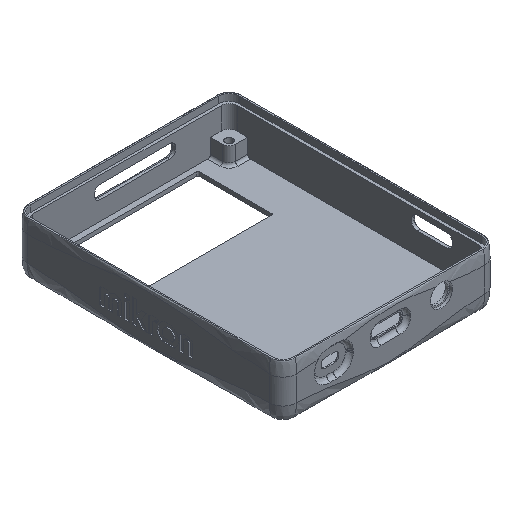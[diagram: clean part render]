
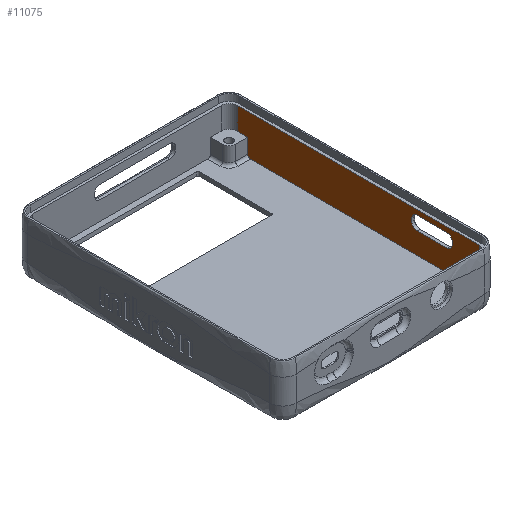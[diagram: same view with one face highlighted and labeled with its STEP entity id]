
A CAD part, isometric view. The second image highlights one B-rep face of the part: STEP entity #11075.
In plain terms, the highlighted planar face has unit normal (-1, 0, 0).
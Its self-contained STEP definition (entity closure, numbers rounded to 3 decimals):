
#14 = VERTEX_POINT ( 'NONE', #19941 ) ;
#131 = VERTEX_POINT ( 'NONE', #15046 ) ;
#187 = CIRCLE ( 'NONE', #22246, 1. ) ;
#429 = LINE ( 'NONE', #18039, #13509 ) ;
#539 = DIRECTION ( 'NONE',  ( 0., 0., -1. ) ) ;
#559 = LINE ( 'NONE', #8236, #13066 ) ;
#881 = DIRECTION ( 'NONE',  ( -1., 0., 0. ) ) ;
#1635 = AXIS2_PLACEMENT_3D ( 'NONE', #13446, #9863, #7824 ) ;
#1725 = EDGE_LOOP ( 'NONE', ( #20039, #2740, #22422, #18406, #20072, #18965, #19700, #25223 ) ) ;
#1790 = LINE ( 'NONE', #21459, #8161 ) ;
#2142 = ORIENTED_EDGE ( 'NONE', *, *, #18988, .T. ) ;
#2521 = LINE ( 'NONE', #12693, #17006 ) ;
#2525 = VERTEX_POINT ( 'NONE', #14174 ) ;
#2621 = AXIS2_PLACEMENT_3D ( 'NONE', #14371, #8622, #22157 ) ;
#2740 = ORIENTED_EDGE ( 'NONE', *, *, #12128, .T. ) ;
#3018 = VECTOR ( 'NONE', #11325, 1000. ) ;
#3197 = VERTEX_POINT ( 'NONE', #8934 ) ;
#3582 = DIRECTION ( 'NONE',  ( 0., 0., -1. ) ) ;
#3860 = CARTESIAN_POINT ( 'NONE',  ( 38., 45., 8.5 ) ) ;
#3998 = EDGE_CURVE ( 'NONE', #14, #16249, #14468, .T. ) ;
#4002 = ORIENTED_EDGE ( 'NONE', *, *, #15305, .T. ) ;
#4566 = EDGE_CURVE ( 'NONE', #131, #12195, #429, .T. ) ;
#4624 = CIRCLE ( 'NONE', #2621, 2. ) ;
#5188 = CARTESIAN_POINT ( 'NONE',  ( 38., -20., 14.9 ) ) ;
#5341 = CARTESIAN_POINT ( 'NONE',  ( 38., 45., 16.8 ) ) ;
#5944 = DIRECTION ( 'NONE',  ( 0., -1., 0. ) ) ;
#6102 = VECTOR ( 'NONE', #24844, 1000. ) ;
#6290 = ORIENTED_EDGE ( 'NONE', *, *, #11349, .F. ) ;
#6431 = AXIS2_PLACEMENT_3D ( 'NONE', #18871, #16835, #9298 ) ;
#6855 = CIRCLE ( 'NONE', #6431, 2. ) ;
#7104 = EDGE_CURVE ( 'NONE', #10796, #19758, #17202, .T. ) ;
#7136 = EDGE_CURVE ( 'NONE', #17852, #24423, #24725, .T. ) ;
#7441 = VERTEX_POINT ( 'NONE', #8878 ) ;
#7597 = CIRCLE ( 'NONE', #13734, 1. ) ;
#7744 = CARTESIAN_POINT ( 'NONE',  ( 38., -20., 9.9 ) ) ;
#7771 = VECTOR ( 'NONE', #24544, 1000. ) ;
#7824 = DIRECTION ( 'NONE',  ( 0., 0., -1. ) ) ;
#8111 = LINE ( 'NONE', #7744, #10130 ) ;
#8161 = VECTOR ( 'NONE', #13411, 1000. ) ;
#8236 = CARTESIAN_POINT ( 'NONE',  ( 38., -41.1, 18.258 ) ) ;
#8242 = CARTESIAN_POINT ( 'NONE',  ( 38., -33., 12.9 ) ) ;
#8514 = AXIS2_PLACEMENT_3D ( 'NONE', #8242, #10380, #16168 ) ;
#8622 = DIRECTION ( 'NONE',  ( 1., 0., 0. ) ) ;
#8768 = CARTESIAN_POINT ( 'NONE',  ( 38., -45., 2. ) ) ;
#8802 = VERTEX_POINT ( 'NONE', #17911 ) ;
#8878 = CARTESIAN_POINT ( 'NONE',  ( 38., 41.1, 3. ) ) ;
#8887 = DIRECTION ( 'NONE',  ( 0., 1., 0. ) ) ;
#8934 = CARTESIAN_POINT ( 'NONE',  ( 38., -35., 12.9 ) ) ;
#9030 = CARTESIAN_POINT ( 'NONE',  ( 38., 40.1, 2. ) ) ;
#9298 = DIRECTION ( 'NONE',  ( 0., 0., -1. ) ) ;
#9818 = EDGE_CURVE ( 'NONE', #20360, #22928, #7597, .T. ) ;
#9863 = DIRECTION ( 'NONE',  ( 1., 0., 0. ) ) ;
#10015 = CARTESIAN_POINT ( 'NONE',  ( 38., -45., 16.8 ) ) ;
#10130 = VECTOR ( 'NONE', #5944, 1000. ) ;
#10191 = CIRCLE ( 'NONE', #1635, 2. ) ;
#10267 = DIRECTION ( 'NONE',  ( 0., 0., 1. ) ) ;
#10380 = DIRECTION ( 'NONE',  ( 1., 0., 0. ) ) ;
#10565 = CARTESIAN_POINT ( 'NONE',  ( 38., 40.1, 3. ) ) ;
#10796 = VERTEX_POINT ( 'NONE', #5341 ) ;
#11075 = ADVANCED_FACE ( 'NONE', ( #17183, #20787 ), #24956, .F. ) ;
#11159 = ORIENTED_EDGE ( 'NONE', *, *, #13742, .T. ) ;
#11315 = ORIENTED_EDGE ( 'NONE', *, *, #9818, .T. ) ;
#11325 = DIRECTION ( 'NONE',  ( 0., -1., 0. ) ) ;
#11349 = EDGE_CURVE ( 'NONE', #2525, #22928, #559, .T. ) ;
#11434 = VECTOR ( 'NONE', #14303, 1000. ) ;
#11517 = CARTESIAN_POINT ( 'NONE',  ( 38., 41.1, 18.258 ) ) ;
#11957 = EDGE_CURVE ( 'NONE', #12289, #8802, #8111, .T. ) ;
#12051 = CARTESIAN_POINT ( 'NONE',  ( 38., -33., 14.9 ) ) ;
#12108 = LINE ( 'NONE', #15980, #11434 ) ;
#12128 = EDGE_CURVE ( 'NONE', #17852, #3197, #16663, .T. ) ;
#12195 = VERTEX_POINT ( 'NONE', #22660 ) ;
#12289 = VERTEX_POINT ( 'NONE', #16136 ) ;
#12693 = CARTESIAN_POINT ( 'NONE',  ( 38., 45., 2. ) ) ;
#12895 = EDGE_CURVE ( 'NONE', #20360, #24130, #24833, .T. ) ;
#13066 = VECTOR ( 'NONE', #13977, 1000. ) ;
#13269 = CARTESIAN_POINT ( 'NONE',  ( 38., -40.1, 3. ) ) ;
#13411 = DIRECTION ( 'NONE',  ( 0., 0., 1. ) ) ;
#13446 = CARTESIAN_POINT ( 'NONE',  ( 38., -22., 11.9 ) ) ;
#13509 = VECTOR ( 'NONE', #539, 1000. ) ;
#13734 = AXIS2_PLACEMENT_3D ( 'NONE', #13269, #21078, #3582 ) ;
#13742 = EDGE_CURVE ( 'NONE', #14, #7441, #16005, .T. ) ;
#13928 = CARTESIAN_POINT ( 'NONE',  ( 38., -41.1, 3. ) ) ;
#13945 = DIRECTION ( 'NONE',  ( 0., 0., -1. ) ) ;
#13977 = DIRECTION ( 'NONE',  ( 0., 0., -1. ) ) ;
#14166 = EDGE_CURVE ( 'NONE', #131, #24423, #6855, .T. ) ;
#14174 = CARTESIAN_POINT ( 'NONE',  ( 38., -41.1, 8.5 ) ) ;
#14303 = DIRECTION ( 'NONE',  ( 0., 1., 0. ) ) ;
#14371 = CARTESIAN_POINT ( 'NONE',  ( 38., -33., 11.9 ) ) ;
#14468 = LINE ( 'NONE', #14595, #7771 ) ;
#14512 = ORIENTED_EDGE ( 'NONE', *, *, #7104, .F. ) ;
#14595 = CARTESIAN_POINT ( 'NONE',  ( 38., 41.1, 8.5 ) ) ;
#15046 = CARTESIAN_POINT ( 'NONE',  ( 38., -20., 12.9 ) ) ;
#15305 = EDGE_CURVE ( 'NONE', #16536, #19758, #18599, .T. ) ;
#15415 = DIRECTION ( 'NONE',  ( 1., 0., 0. ) ) ;
#15481 = EDGE_CURVE ( 'NONE', #12289, #12195, #10191, .T. ) ;
#15600 = EDGE_CURVE ( 'NONE', #20246, #3197, #1790, .T. ) ;
#15719 = EDGE_CURVE ( 'NONE', #16536, #2525, #12108, .T. ) ;
#15980 = CARTESIAN_POINT ( 'NONE',  ( 38., -41.1, 8.5 ) ) ;
#16005 = LINE ( 'NONE', #11517, #23880 ) ;
#16136 = CARTESIAN_POINT ( 'NONE',  ( 38., -22., 9.9 ) ) ;
#16168 = DIRECTION ( 'NONE',  ( 0., 0., -1. ) ) ;
#16185 = ORIENTED_EDGE ( 'NONE', *, *, #3998, .F. ) ;
#16249 = VERTEX_POINT ( 'NONE', #3860 ) ;
#16458 = DIRECTION ( 'NONE',  ( 0., 0., -1. ) ) ;
#16536 = VERTEX_POINT ( 'NONE', #24868 ) ;
#16638 = ORIENTED_EDGE ( 'NONE', *, *, #15719, .F. ) ;
#16663 = CIRCLE ( 'NONE', #8514, 2. ) ;
#16835 = DIRECTION ( 'NONE',  ( 1., 0., 0. ) ) ;
#16842 = CARTESIAN_POINT ( 'NONE',  ( 38., -35., 11.9 ) ) ;
#16944 = CARTESIAN_POINT ( 'NONE',  ( 38., -45., 16.8 ) ) ;
#17006 = VECTOR ( 'NONE', #10267, 1000. ) ;
#17047 = CARTESIAN_POINT ( 'NONE',  ( 38., -45., 2. ) ) ;
#17183 = FACE_BOUND ( 'NONE', #1725, .T. ) ;
#17202 = LINE ( 'NONE', #16944, #3018 ) ;
#17439 = CARTESIAN_POINT ( 'NONE',  ( 38., -45., 2. ) ) ;
#17563 = DIRECTION ( 'NONE',  ( 0., 0., -1. ) ) ;
#17852 = VERTEX_POINT ( 'NONE', #12051 ) ;
#17865 = CARTESIAN_POINT ( 'NONE',  ( 38., -40.1, 2. ) ) ;
#17911 = CARTESIAN_POINT ( 'NONE',  ( 38., -33., 9.9 ) ) ;
#17919 = EDGE_CURVE ( 'NONE', #20246, #8802, #4624, .T. ) ;
#18039 = CARTESIAN_POINT ( 'NONE',  ( 38., -20., 14.9 ) ) ;
#18406 = ORIENTED_EDGE ( 'NONE', *, *, #17919, .T. ) ;
#18599 = LINE ( 'NONE', #8768, #6102 ) ;
#18815 = CARTESIAN_POINT ( 'NONE',  ( 38., -22., 14.9 ) ) ;
#18871 = CARTESIAN_POINT ( 'NONE',  ( 38., -22., 12.9 ) ) ;
#18965 = ORIENTED_EDGE ( 'NONE', *, *, #15481, .T. ) ;
#18988 = EDGE_CURVE ( 'NONE', #7441, #24130, #187, .T. ) ;
#19700 = ORIENTED_EDGE ( 'NONE', *, *, #4566, .F. ) ;
#19727 = VECTOR ( 'NONE', #22962, 1000. ) ;
#19758 = VERTEX_POINT ( 'NONE', #10015 ) ;
#19804 = VECTOR ( 'NONE', #8887, 1000. ) ;
#19863 = EDGE_LOOP ( 'NONE', ( #20632, #11315, #6290, #16638, #4002, #14512, #23155, #16185, #11159, #2142 ) ) ;
#19941 = CARTESIAN_POINT ( 'NONE',  ( 38., 41.1, 8.5 ) ) ;
#20039 = ORIENTED_EDGE ( 'NONE', *, *, #7136, .F. ) ;
#20072 = ORIENTED_EDGE ( 'NONE', *, *, #11957, .F. ) ;
#20246 = VERTEX_POINT ( 'NONE', #16842 ) ;
#20360 = VERTEX_POINT ( 'NONE', #17865 ) ;
#20632 = ORIENTED_EDGE ( 'NONE', *, *, #12895, .F. ) ;
#20787 = FACE_OUTER_BOUND ( 'NONE', #19863, .T. ) ;
#21078 = DIRECTION ( 'NONE',  ( -1., 0., 0. ) ) ;
#21459 = CARTESIAN_POINT ( 'NONE',  ( 38., -35., 14.9 ) ) ;
#22157 = DIRECTION ( 'NONE',  ( 0., 0., -1. ) ) ;
#22246 = AXIS2_PLACEMENT_3D ( 'NONE', #10565, #881, #16458 ) ;
#22422 = ORIENTED_EDGE ( 'NONE', *, *, #15600, .F. ) ;
#22660 = CARTESIAN_POINT ( 'NONE',  ( 38., -20., 11.9 ) ) ;
#22928 = VERTEX_POINT ( 'NONE', #13928 ) ;
#22962 = DIRECTION ( 'NONE',  ( 0., 1., 0. ) ) ;
#23155 = ORIENTED_EDGE ( 'NONE', *, *, #24294, .F. ) ;
#23645 = AXIS2_PLACEMENT_3D ( 'NONE', #17439, #15415, #17563 ) ;
#23880 = VECTOR ( 'NONE', #13945, 1000. ) ;
#24130 = VERTEX_POINT ( 'NONE', #9030 ) ;
#24294 = EDGE_CURVE ( 'NONE', #16249, #10796, #2521, .T. ) ;
#24423 = VERTEX_POINT ( 'NONE', #18815 ) ;
#24544 = DIRECTION ( 'NONE',  ( 0., 1., 0. ) ) ;
#24725 = LINE ( 'NONE', #5188, #19727 ) ;
#24833 = LINE ( 'NONE', #17047, #19804 ) ;
#24844 = DIRECTION ( 'NONE',  ( 0., 0., 1. ) ) ;
#24868 = CARTESIAN_POINT ( 'NONE',  ( 38., -45., 8.5 ) ) ;
#24956 = PLANE ( 'NONE',  #23645 ) ;
#25223 = ORIENTED_EDGE ( 'NONE', *, *, #14166, .T. ) ;
